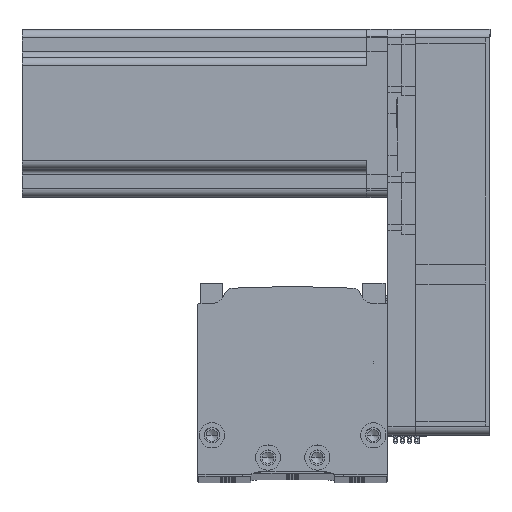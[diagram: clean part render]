
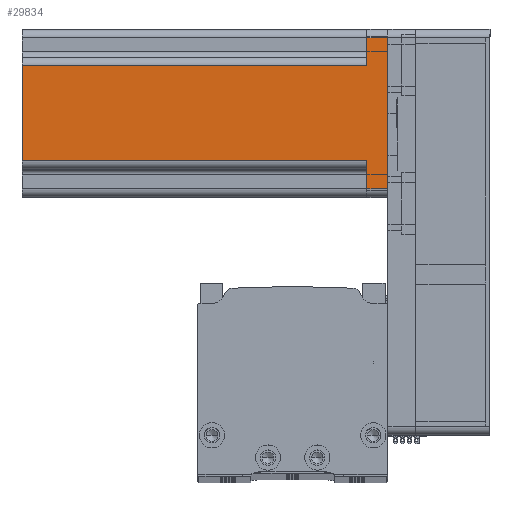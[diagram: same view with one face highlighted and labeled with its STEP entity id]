
A CAD part, top view. The second image highlights one B-rep face of the part: STEP entity #29834.
In plain terms, the highlighted planar face has unit normal (0, 0, 1) as drawn and (0, -1, 0) by its records, which use the part's own axes.
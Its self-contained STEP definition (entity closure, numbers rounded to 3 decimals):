
#280 = CARTESIAN_POINT ( 'NONE',  ( -27., -30., 7.5 ) ) ;
#1576 = CARTESIAN_POINT ( 'NONE',  ( 17., -30., 130.7 ) ) ;
#1622 = LINE ( 'NONE', #57966, #10895 ) ;
#2130 = LINE ( 'NONE', #11961, #49453 ) ;
#2582 = CARTESIAN_POINT ( 'NONE',  ( 30., -30., 0. ) ) ;
#2762 = EDGE_LOOP ( 'NONE', ( #10503, #54886, #41204, #16751, #4392, #35932, #3712, #52305 ) ) ;
#2922 = VECTOR ( 'NONE', #46385, 1000. ) ;
#3712 = ORIENTED_EDGE ( 'NONE', *, *, #7877, .T. ) ;
#4392 = ORIENTED_EDGE ( 'NONE', *, *, #17689, .T. ) ;
#4637 = DIRECTION ( 'NONE',  ( 1., 0., 0. ) ) ;
#5620 = CARTESIAN_POINT ( 'NONE',  ( 27., -30., 130.7 ) ) ;
#7034 = VECTOR ( 'NONE', #30955, 1000. ) ;
#7771 = AXIS2_PLACEMENT_3D ( 'NONE', #9303, #41406, #13843 ) ;
#7877 = EDGE_CURVE ( 'NONE', #58556, #19627, #2130, .T. ) ;
#7967 = VERTEX_POINT ( 'NONE', #8596 ) ;
#8298 = CARTESIAN_POINT ( 'NONE',  ( -17., -30., 7.5 ) ) ;
#8596 = CARTESIAN_POINT ( 'NONE',  ( 27., -30., 0. ) ) ;
#9303 = CARTESIAN_POINT ( 'NONE',  ( 30., -30., 130.7 ) ) ;
#10503 = ORIENTED_EDGE ( 'NONE', *, *, #11733, .F. ) ;
#10895 = VECTOR ( 'NONE', #44412, 1000. ) ;
#11733 = EDGE_CURVE ( 'NONE', #13134, #41172, #15093, .T. ) ;
#11769 = DIRECTION ( 'NONE',  ( -1., 0., 0. ) ) ;
#11961 = CARTESIAN_POINT ( 'NONE',  ( 20., -30., 7.5 ) ) ;
#13134 = VERTEX_POINT ( 'NONE', #42244 ) ;
#13843 = DIRECTION ( 'NONE',  ( -1., 0., 0. ) ) ;
#14986 = FACE_OUTER_BOUND ( 'NONE', #2762, .T. ) ;
#15093 = LINE ( 'NONE', #50764, #2922 ) ;
#15756 = LINE ( 'NONE', #17030, #26587 ) ;
#16751 = ORIENTED_EDGE ( 'NONE', *, *, #53149, .T. ) ;
#17030 = CARTESIAN_POINT ( 'NONE',  ( -27., -30., 130.7 ) ) ;
#17689 = EDGE_CURVE ( 'NONE', #31983, #7967, #44091, .T. ) ;
#19393 = DIRECTION ( 'NONE',  ( 0., 0., 1. ) ) ;
#19627 = VERTEX_POINT ( 'NONE', #39556 ) ;
#25768 = VERTEX_POINT ( 'NONE', #280 ) ;
#26426 = VECTOR ( 'NONE', #4637, 1000. ) ;
#26587 = VECTOR ( 'NONE', #30589, 1000. ) ;
#28662 = EDGE_CURVE ( 'NONE', #19627, #41172, #31483, .T. ) ;
#29834 = ADVANCED_FACE ( 'NONE', ( #14986 ), #50410, .F. ) ;
#30589 = DIRECTION ( 'NONE',  ( 0., 0., -1. ) ) ;
#30955 = DIRECTION ( 'NONE',  ( 0., 0., 1. ) ) ;
#31483 = LINE ( 'NONE', #58150, #7034 ) ;
#31983 = VERTEX_POINT ( 'NONE', #46240 ) ;
#32367 = EDGE_CURVE ( 'NONE', #13134, #33622, #1622, .T. ) ;
#33622 = VERTEX_POINT ( 'NONE', #8298 ) ;
#35932 = ORIENTED_EDGE ( 'NONE', *, *, #46459, .T. ) ;
#39134 = EDGE_CURVE ( 'NONE', #25768, #33622, #40053, .T. ) ;
#39309 = DIRECTION ( 'NONE',  ( 1., 0., 0. ) ) ;
#39556 = CARTESIAN_POINT ( 'NONE',  ( 17., -30., 7.5 ) ) ;
#40053 = LINE ( 'NONE', #50378, #26426 ) ;
#41172 = VERTEX_POINT ( 'NONE', #1576 ) ;
#41204 = ORIENTED_EDGE ( 'NONE', *, *, #39134, .F. ) ;
#41406 = DIRECTION ( 'NONE',  ( 0., 1., 0. ) ) ;
#42244 = CARTESIAN_POINT ( 'NONE',  ( -17., -30., 130.7 ) ) ;
#44091 = LINE ( 'NONE', #2582, #56259 ) ;
#44412 = DIRECTION ( 'NONE',  ( 0., 0., -1. ) ) ;
#46240 = CARTESIAN_POINT ( 'NONE',  ( -27., -30., 0. ) ) ;
#46385 = DIRECTION ( 'NONE',  ( 1., 0., 0. ) ) ;
#46459 = EDGE_CURVE ( 'NONE', #7967, #58556, #58968, .T. ) ;
#46860 = VECTOR ( 'NONE', #19393, 1000. ) ;
#49453 = VECTOR ( 'NONE', #11769, 1000. ) ;
#50378 = CARTESIAN_POINT ( 'NONE',  ( -20., -30., 7.5 ) ) ;
#50410 = PLANE ( 'NONE',  #7771 ) ;
#50764 = CARTESIAN_POINT ( 'NONE',  ( 30., -30., 130.7 ) ) ;
#52305 = ORIENTED_EDGE ( 'NONE', *, *, #28662, .T. ) ;
#53149 = EDGE_CURVE ( 'NONE', #25768, #31983, #15756, .T. ) ;
#54886 = ORIENTED_EDGE ( 'NONE', *, *, #32367, .T. ) ;
#56137 = CARTESIAN_POINT ( 'NONE',  ( 27., -30., 7.5 ) ) ;
#56259 = VECTOR ( 'NONE', #39309, 1000. ) ;
#57966 = CARTESIAN_POINT ( 'NONE',  ( -17., -30., 130.7 ) ) ;
#58150 = CARTESIAN_POINT ( 'NONE',  ( 17., -30., 130.7 ) ) ;
#58556 = VERTEX_POINT ( 'NONE', #56137 ) ;
#58968 = LINE ( 'NONE', #5620, #46860 ) ;
